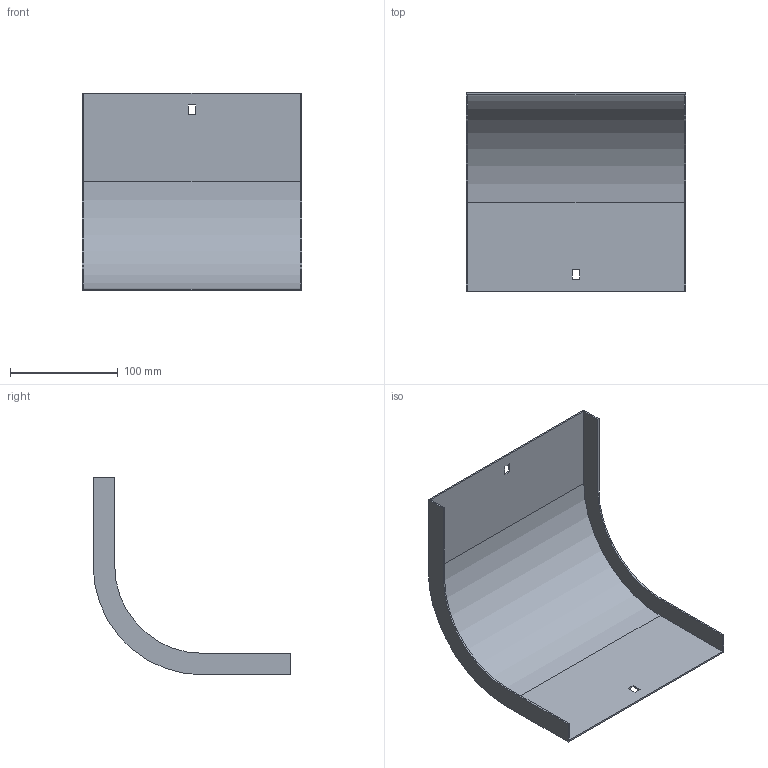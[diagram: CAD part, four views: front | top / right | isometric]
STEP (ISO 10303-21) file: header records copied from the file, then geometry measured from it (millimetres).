
FILE_DESCRIPTION (( 'STEP AP214' ), '1' );
FILE_NAME ('33G1B200.step', '2025-02-21T12:44:21', ( '' ), ( '' ), 'SwSTEP 2.0', 'SolidWorks 2023', '' );
FILE_SCHEMA (( 'AUTOMOTIVE_DESIGN' ));
Length unit declared in the file: millimetre
Products named in the file (1): 33G1B200
Bounding box: 204 x 183.5 x 183.5 mm (x, y, z)
Volume: 115448.9 mm3; surface area: 155627.4 mm2
Topology: 1 solids, 1 shells, 26 faces, 72 edges, 48 vertices
Faces by surface type: plane 22, cylinder 4
Entity records: 855 total; most frequent: CARTESIAN_POINT 147, ORIENTED_EDGE 144, DIRECTION 134, EDGE_CURVE 72, VECTOR 64, LINE 64, VERTEX_POINT 48, AXIS2_PLACEMENT_3D 35
